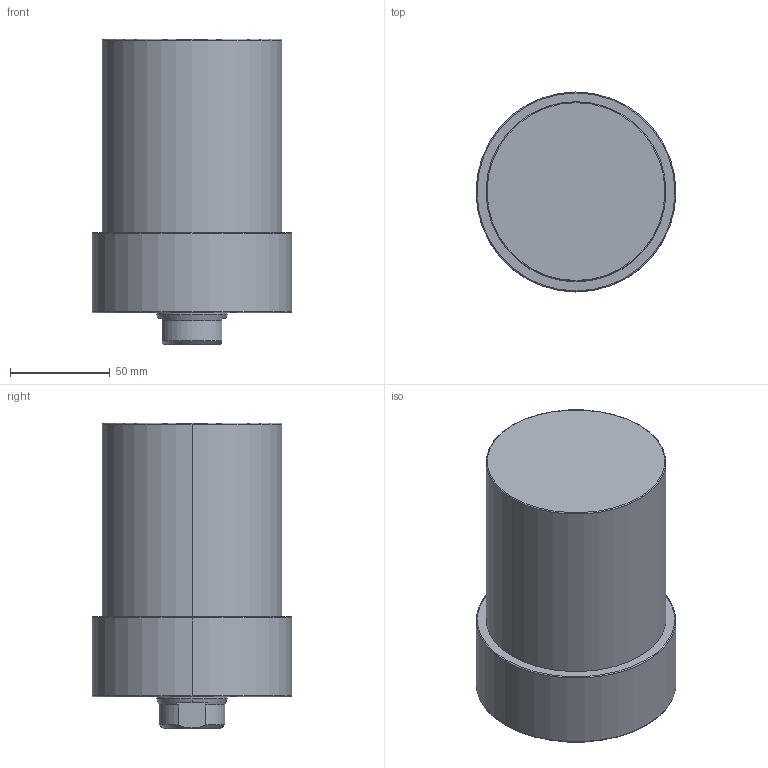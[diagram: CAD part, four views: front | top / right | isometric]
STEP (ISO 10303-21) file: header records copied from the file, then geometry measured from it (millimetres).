
FILE_DESCRIPTION (( 'STEP AP203' ), '1' );
FILE_NAME ('CLLU-090CA-075.STEP', '2020-01-11T00:41:41', ( '' ), ( '' ), 'SwSTEP 2.0', 'SolidWorks 2015', '' );
FILE_SCHEMA (( 'CONFIG_CONTROL_DESIGN' ));
Length unit declared in the file: millimetre
Products named in the file (1): CLLU-090CA-075
Bounding box: 100 x 100 x 153 mm (x, y, z)
Volume: 926796.1 mm3; surface area: 62275.6 mm2
Topology: 1 solids, 1 shells, 62 faces, 140 edges, 79 vertices
Faces by surface type: cone 24, cylinder 22, plane 10, torus 6
Entity records: 1767 total; most frequent: DIRECTION 320, CARTESIAN_POINT 316, ORIENTED_EDGE 260, AXIS2_PLACEMENT_3D 135, EDGE_CURVE 130, VERTEX_POINT 79, CIRCLE 72, EDGE_LOOP 71
